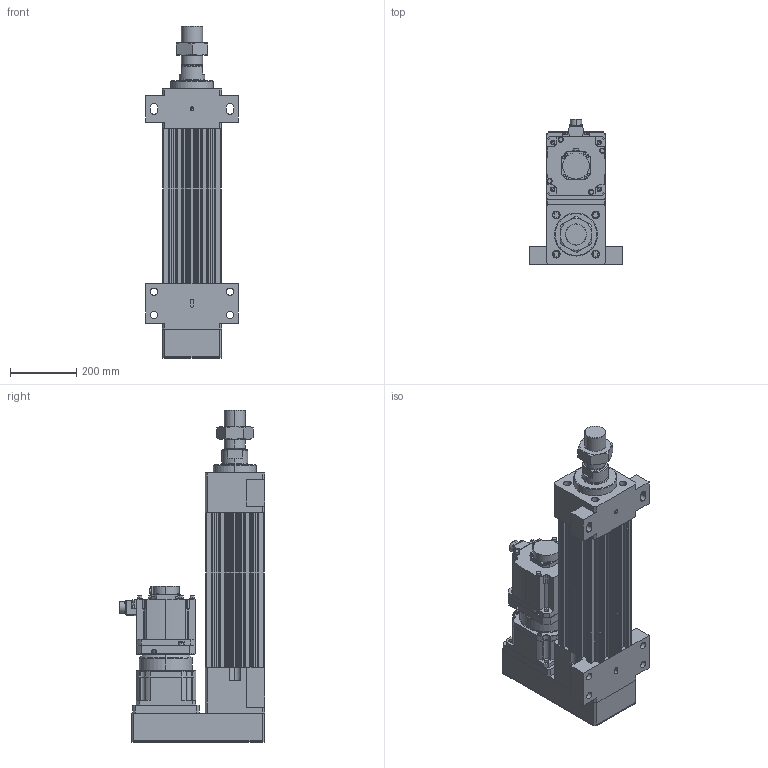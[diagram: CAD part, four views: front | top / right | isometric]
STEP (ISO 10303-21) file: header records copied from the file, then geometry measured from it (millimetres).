
FILE_DESCRIPTION (( 'STEP AP203' ), '1' );
FILE_NAME ('HES180HS-P150-W050G00-M-FFB.STEP', '2023-02-01T06:23:48', ( 'tms' ), ( '' ), 'SwSTEP 2.0', 'SolidWorks 2013', '' );
FILE_SCHEMA (( 'CONFIG_CONTROL_DESIGN' ));
Length unit declared in the file: millimetre
Products named in the file (9): M64X2.0P; P1301600001; AB180-003[HG-SR702B]; HES180-P150-G180-FFB; HG-SR502; P0403600401; HES180HS-P150-W050G00-M-FFB; AB1801; HES180 ROD M ST150
Assembly tree (8 placements, depth 3):
  HES180HS-P150-W050G00-M-FFB
    HES180-P150-G180-FFB
    HES180 ROD M ST150
    M64X2.0P
    AB180-003[HG-SR702B]
      AB1801
      P1301600001
      P0403600401
    HG-SR502
Bounding box: 280 x 438.85 x 1002 mm (x, y, z)
Volume: 25200953.3 mm3; surface area: 2070040.1 mm2
Topology: 4 solids, 19 shells, 1446 faces, 3761 edges, 2443 vertices
Faces by surface type: cylinder 668, plane 567, cone 144, bspline 63, torus 4
Entity records: 53114 total; most frequent: CARTESIAN_POINT 16078, DIRECTION 7777, ORIENTED_EDGE 7426, EDGE_CURVE 3737, AXIS2_PLACEMENT_3D 2922, VERTEX_POINT 2443, VECTOR 1933, LINE 1933
